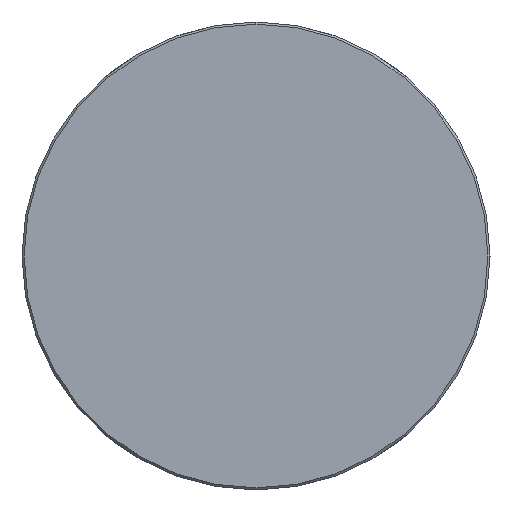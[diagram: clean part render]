
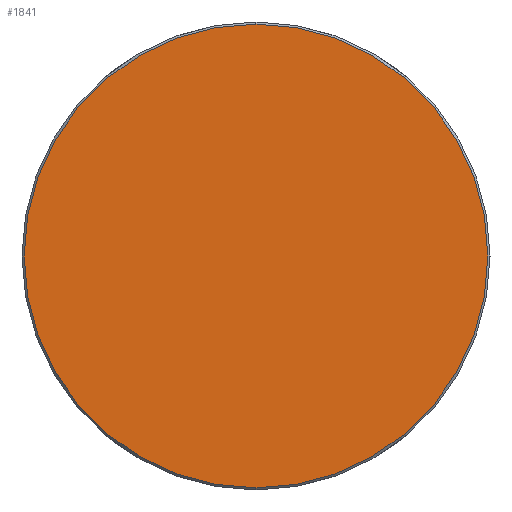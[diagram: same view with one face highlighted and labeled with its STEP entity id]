
A CAD part, left-side view. The second image highlights one B-rep face of the part: STEP entity #1841.
In plain terms, the highlighted planar face has unit normal (-1, 0, 0).
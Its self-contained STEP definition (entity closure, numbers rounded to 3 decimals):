
#300 = ORIENTED_EDGE ( 'NONE', *, *, #1083, .T. ) ;
#321 = EDGE_CURVE ( 'NONE', #889, #349, #2679, .T. ) ;
#349 = VERTEX_POINT ( 'NONE', #1908 ) ;
#410 = DIRECTION ( 'NONE',  ( 0., -1., 0. ) ) ;
#493 = FACE_OUTER_BOUND ( 'NONE', #674, .T. ) ;
#674 = EDGE_LOOP ( 'NONE', ( #300, #817 ) ) ;
#756 = AXIS2_PLACEMENT_3D ( 'NONE', #1463, #1687, #410 ) ;
#817 = ORIENTED_EDGE ( 'NONE', *, *, #321, .T. ) ;
#889 = VERTEX_POINT ( 'NONE', #1237 ) ;
#1083 = EDGE_CURVE ( 'NONE', #349, #889, #1904, .T. ) ;
#1133 = AXIS2_PLACEMENT_3D ( 'NONE', #1362, #2447, #1764 ) ;
#1193 = AXIS2_PLACEMENT_3D ( 'NONE', #2328, #2519, #2102 ) ;
#1237 = CARTESIAN_POINT ( 'NONE',  ( -123.5, 0., 54.5 ) ) ;
#1256 = PLANE ( 'NONE',  #756 ) ;
#1362 = CARTESIAN_POINT ( 'NONE',  ( -123.5, 0., 0. ) ) ;
#1463 = CARTESIAN_POINT ( 'NONE',  ( -123.5, 55.154, -55.154 ) ) ;
#1687 = DIRECTION ( 'NONE',  ( -1., 0., 0. ) ) ;
#1764 = DIRECTION ( 'NONE',  ( 0., 0., -1. ) ) ;
#1841 = ADVANCED_FACE ( 'NONE', ( #493 ), #1256, .T. ) ;
#1904 = CIRCLE ( 'NONE', #1133, 54.5 ) ;
#1908 = CARTESIAN_POINT ( 'NONE',  ( -123.5, 0., -54.5 ) ) ;
#2102 = DIRECTION ( 'NONE',  ( 0., 0., -1. ) ) ;
#2328 = CARTESIAN_POINT ( 'NONE',  ( -123.5, 0., 0. ) ) ;
#2447 = DIRECTION ( 'NONE',  ( -1., 0., 0. ) ) ;
#2519 = DIRECTION ( 'NONE',  ( -1., 0., 0. ) ) ;
#2679 = CIRCLE ( 'NONE', #1193, 54.5 ) ;
